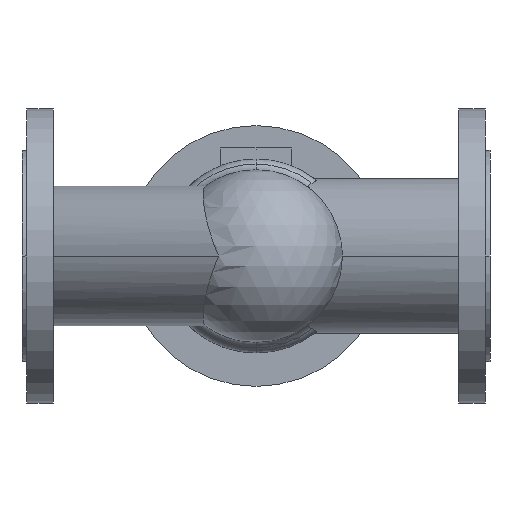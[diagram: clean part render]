
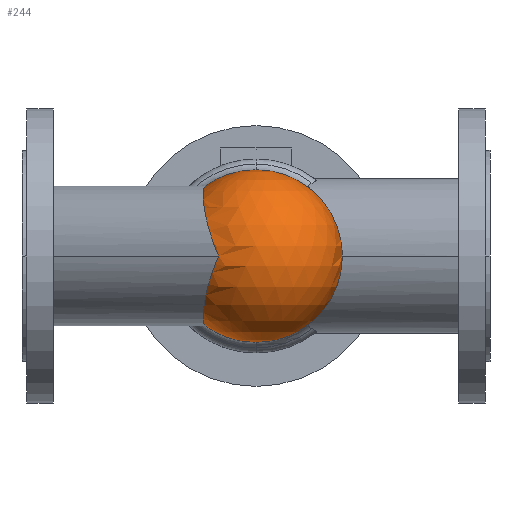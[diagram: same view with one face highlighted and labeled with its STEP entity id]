
A CAD part, front view. The second image highlights one B-rep face of the part: STEP entity #244.
In plain terms, the highlighted spherical face has radius 64.5 mm.
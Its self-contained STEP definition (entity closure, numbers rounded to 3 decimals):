
#244 = ADVANCED_FACE( '', ( #653 ), #654, .T. );
#653 = FACE_OUTER_BOUND( '', #1118, .T. );
#654 = SPHERICAL_SURFACE( '', #1119, 64.5 );
#1118 = EDGE_LOOP( '', ( #2611, #2612, #2613, #2614, #2615, #2616 ) );
#1119 = AXIS2_PLACEMENT_3D( '', #2617, #2618, #2619 );
#2611 = ORIENTED_EDGE( '', *, *, #2950, .F. );
#2612 = ORIENTED_EDGE( '', *, *, #3011, .F. );
#2613 = ORIENTED_EDGE( '', *, *, #3010, .F. );
#2614 = ORIENTED_EDGE( '', *, *, #3408, .F. );
#2615 = ORIENTED_EDGE( '', *, *, #3409, .F. );
#2616 = ORIENTED_EDGE( '', *, *, #3410, .F. );
#2617 = CARTESIAN_POINT( '', ( 175., -59.5, 0. ) );
#2618 = DIRECTION( '', ( 0., 0., 1. ) );
#2619 = DIRECTION( '', ( 1., 0., 0. ) );
#2950 = EDGE_CURVE( '', #3538, #3524, #3540, .T. );
#3010 = EDGE_CURVE( '', #3654, #3656, #3657, .T. );
#3011 = EDGE_CURVE( '', #3656, #3538, #3658, .T. );
#3408 = EDGE_CURVE( '', #4303, #3654, #4304, .T. );
#3409 = EDGE_CURVE( '', #4305, #4303, #4306, .T. );
#3410 = EDGE_CURVE( '', #3524, #4305, #4307, .T. );
#3524 = VERTEX_POINT( '', #4441 );
#3538 = VERTEX_POINT( '', #4521 );
#3540 = B_SPLINE_CURVE_WITH_KNOTS( '', 3, ( #4542, #4543, #4544, #4545, #4546, #4547, #4548, #4549, #4550, #4551, #4552, #4553, #4554, #4555, #4556, #4557, #4558, #4559, #4560, #4561, #4562, #4563, #4564, #4565, #4566, #4567, #4568, #4569, #4570, #4571, #4572, #4573, #4574, #4575, #4576, #4577 ), .UNSPECIFIED., .F., .F., ( 4, 2, 2, 2, 2, 2, 2, 2, 2, 2, 2, 2, 2, 2, 2, 2, 2, 4 ), ( 250.829, 251.582, 256.819, 262.057, 267.294, 272.532, 277.769, 283.007, 288.245, 293.708, 299.172, 304.636, 310.1, 315.564, 321.028, 326.492, 331.956, 331.968 ), .UNSPECIFIED. );
#3654 = VERTEX_POINT( '', #4880 );
#3656 = VERTEX_POINT( '', #4883 );
#3657 = CIRCLE( '', #4884, 64.5 );
#3658 = CIRCLE( '', #4885, 64.5 );
#4303 = VERTEX_POINT( '', #6107 );
#4304 = CIRCLE( '', #6108, 64.5 );
#4305 = VERTEX_POINT( '', #6109 );
#4306 = CIRCLE( '', #6110, 64.5 );
#4307 = B_SPLINE_CURVE_WITH_KNOTS( '', 3, ( #6111, #6112, #6113, #6114, #6115, #6116, #6117, #6118, #6119, #6120, #6121, #6122, #6123, #6124, #6125, #6126, #6127, #6128, #6129, #6130, #6131, #6132, #6133, #6134, #6135, #6136, #6137, #6138, #6139, #6140, #6141, #6142, #6143, #6144, #6145, #6146 ), .UNSPECIFIED., .F., .F., ( 4, 2, 2, 2, 2, 2, 2, 2, 2, 2, 2, 2, 2, 2, 2, 2, 2, 4 ), ( 0., 0.012, 5.476, 10.94, 16.404, 21.868, 27.332, 32.795, 38.259, 43.723, 48.961, 54.198, 59.436, 64.673, 69.911, 75.148, 80.386, 81.139 ), .UNSPECIFIED. );
#4441 = CARTESIAN_POINT( '', ( 146.964, -117.588, 0. ) );
#4521 = CARTESIAN_POINT( '', ( 136.919, -59.5, -52.058 ) );
#4542 = CARTESIAN_POINT( '', ( 136.919, -59.5, -52.058 ) );
#4543 = CARTESIAN_POINT( '', ( 136.891, -59.755, -52.038 ) );
#4544 = CARTESIAN_POINT( '', ( 136.865, -60.011, -52.017 ) );
#4545 = CARTESIAN_POINT( '', ( 136.652, -62.049, -51.831 ) );
#4546 = CARTESIAN_POINT( '', ( 136.481, -63.847, -51.585 ) );
#4547 = CARTESIAN_POINT( '', ( 136.173, -67.443, -50.922 ) );
#4548 = CARTESIAN_POINT( '', ( 136.038, -69.241, -50.505 ) );
#4549 = CARTESIAN_POINT( '', ( 135.81, -72.809, -49.505 ) );
#4550 = CARTESIAN_POINT( '', ( 135.718, -74.578, -48.921 ) );
#4551 = CARTESIAN_POINT( '', ( 135.584, -78.059, -47.599 ) );
#4552 = CARTESIAN_POINT( '', ( 135.542, -79.772, -46.86 ) );
#4553 = CARTESIAN_POINT( '', ( 135.512, -83.117, -45.24 ) );
#4554 = CARTESIAN_POINT( '', ( 135.524, -84.749, -44.36 ) );
#4555 = CARTESIAN_POINT( '', ( 135.604, -87.907, -42.481 ) );
#4556 = CARTESIAN_POINT( '', ( 135.672, -89.434, -41.482 ) );
#4557 = CARTESIAN_POINT( '', ( 135.863, -92.363, -39.393 ) );
#4558 = CARTESIAN_POINT( '', ( 135.986, -93.765, -38.302 ) );
#4559 = CARTESIAN_POINT( '', ( 136.289, -96.486, -36.015 ) );
#4560 = CARTESIAN_POINT( '', ( 136.478, -97.851, -34.771 ) );
#4561 = CARTESIAN_POINT( '', ( 136.928, -100.499, -32.147 ) );
#4562 = CARTESIAN_POINT( '', ( 137.191, -101.783, -30.766 ) );
#4563 = CARTESIAN_POINT( '', ( 137.793, -104.241, -27.888 ) );
#4564 = CARTESIAN_POINT( '', ( 138.133, -105.417, -26.391 ) );
#4565 = CARTESIAN_POINT( '', ( 138.892, -107.637, -23.304 ) );
#4566 = CARTESIAN_POINT( '', ( 139.311, -108.682, -21.714 ) );
#4567 = CARTESIAN_POINT( '', ( 140.227, -110.625, -18.47 ) );
#4568 = CARTESIAN_POINT( '', ( 140.725, -111.524, -16.815 ) );
#4569 = CARTESIAN_POINT( '', ( 141.794, -113.166, -13.467 ) );
#4570 = CARTESIAN_POINT( '', ( 142.366, -113.909, -11.775 ) );
#4571 = CARTESIAN_POINT( '', ( 143.577, -115.233, -8.385 ) );
#4572 = CARTESIAN_POINT( '', ( 144.216, -115.815, -6.687 ) );
#4573 = CARTESIAN_POINT( '', ( 145.549, -116.819, -3.32 ) );
#4574 = CARTESIAN_POINT( '', ( 146.244, -117.24, -1.651 ) );
#4575 = CARTESIAN_POINT( '', ( 146.961, -117.587, -0.008 ) );
#4576 = CARTESIAN_POINT( '', ( 146.963, -117.588, -0.004 ) );
#4577 = CARTESIAN_POINT( '', ( 146.964, -117.588, 0. ) );
#4880 = CARTESIAN_POINT( '', ( 239.5, -59.5, 0. ) );
#4883 = CARTESIAN_POINT( '', ( 175., -59.5, -64.5 ) );
#4884 = AXIS2_PLACEMENT_3D( '', #6442, #6443, #6444 );
#4885 = AXIS2_PLACEMENT_3D( '', #6445, #6446, #6447 );
#6107 = CARTESIAN_POINT( '', ( 175., -59.5, 64.5 ) );
#6108 = AXIS2_PLACEMENT_3D( '', #7188, #7189, #7190 );
#6109 = CARTESIAN_POINT( '', ( 136.919, -59.5, 52.058 ) );
#6110 = AXIS2_PLACEMENT_3D( '', #7191, #7192, #7193 );
#6111 = CARTESIAN_POINT( '', ( 146.964, -117.588, 0. ) );
#6112 = CARTESIAN_POINT( '', ( 146.963, -117.588, 0.004 ) );
#6113 = CARTESIAN_POINT( '', ( 146.961, -117.587, 0.008 ) );
#6114 = CARTESIAN_POINT( '', ( 146.244, -117.24, 1.651 ) );
#6115 = CARTESIAN_POINT( '', ( 145.549, -116.819, 3.32 ) );
#6116 = CARTESIAN_POINT( '', ( 144.216, -115.815, 6.687 ) );
#6117 = CARTESIAN_POINT( '', ( 143.577, -115.233, 8.385 ) );
#6118 = CARTESIAN_POINT( '', ( 142.366, -113.909, 11.775 ) );
#6119 = CARTESIAN_POINT( '', ( 141.794, -113.166, 13.467 ) );
#6120 = CARTESIAN_POINT( '', ( 140.725, -111.524, 16.815 ) );
#6121 = CARTESIAN_POINT( '', ( 140.227, -110.625, 18.47 ) );
#6122 = CARTESIAN_POINT( '', ( 139.311, -108.682, 21.714 ) );
#6123 = CARTESIAN_POINT( '', ( 138.892, -107.637, 23.304 ) );
#6124 = CARTESIAN_POINT( '', ( 138.133, -105.417, 26.391 ) );
#6125 = CARTESIAN_POINT( '', ( 137.793, -104.241, 27.888 ) );
#6126 = CARTESIAN_POINT( '', ( 137.191, -101.783, 30.766 ) );
#6127 = CARTESIAN_POINT( '', ( 136.928, -100.499, 32.147 ) );
#6128 = CARTESIAN_POINT( '', ( 136.478, -97.851, 34.771 ) );
#6129 = CARTESIAN_POINT( '', ( 136.289, -96.486, 36.015 ) );
#6130 = CARTESIAN_POINT( '', ( 135.986, -93.765, 38.302 ) );
#6131 = CARTESIAN_POINT( '', ( 135.863, -92.363, 39.393 ) );
#6132 = CARTESIAN_POINT( '', ( 135.672, -89.434, 41.482 ) );
#6133 = CARTESIAN_POINT( '', ( 135.604, -87.907, 42.481 ) );
#6134 = CARTESIAN_POINT( '', ( 135.524, -84.749, 44.36 ) );
#6135 = CARTESIAN_POINT( '', ( 135.512, -83.117, 45.24 ) );
#6136 = CARTESIAN_POINT( '', ( 135.542, -79.772, 46.86 ) );
#6137 = CARTESIAN_POINT( '', ( 135.584, -78.059, 47.599 ) );
#6138 = CARTESIAN_POINT( '', ( 135.718, -74.578, 48.921 ) );
#6139 = CARTESIAN_POINT( '', ( 135.81, -72.809, 49.505 ) );
#6140 = CARTESIAN_POINT( '', ( 136.038, -69.241, 50.505 ) );
#6141 = CARTESIAN_POINT( '', ( 136.173, -67.443, 50.922 ) );
#6142 = CARTESIAN_POINT( '', ( 136.481, -63.847, 51.585 ) );
#6143 = CARTESIAN_POINT( '', ( 136.652, -62.049, 51.831 ) );
#6144 = CARTESIAN_POINT( '', ( 136.865, -60.011, 52.017 ) );
#6145 = CARTESIAN_POINT( '', ( 136.891, -59.755, 52.038 ) );
#6146 = CARTESIAN_POINT( '', ( 136.919, -59.5, 52.058 ) );
#6442 = CARTESIAN_POINT( '', ( 175., -59.5, 0. ) );
#6443 = DIRECTION( '', ( 0., 1., 0. ) );
#6444 = DIRECTION( '', ( 1., 0., 0. ) );
#6445 = CARTESIAN_POINT( '', ( 175., -59.5, 0. ) );
#6446 = DIRECTION( '', ( 0., 1., 0. ) );
#6447 = DIRECTION( '', ( 1., 0., 0. ) );
#7188 = CARTESIAN_POINT( '', ( 175., -59.5, 0. ) );
#7189 = DIRECTION( '', ( 0., 1., 0. ) );
#7190 = DIRECTION( '', ( 1., 0., 0. ) );
#7191 = CARTESIAN_POINT( '', ( 175., -59.5, 0. ) );
#7192 = DIRECTION( '', ( 0., 1., 0. ) );
#7193 = DIRECTION( '', ( 1., 0., 0. ) );
